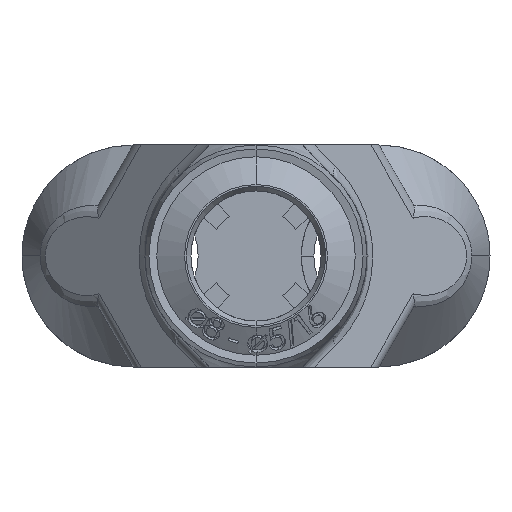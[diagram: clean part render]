
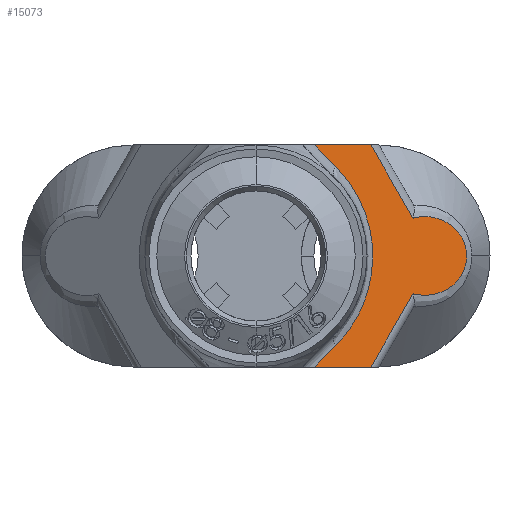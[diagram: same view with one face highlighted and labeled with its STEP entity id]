
A CAD part, front view. The second image highlights one B-rep face of the part: STEP entity #15073.
In plain terms, the highlighted planar face has unit normal (0.643, -0.766, 0).
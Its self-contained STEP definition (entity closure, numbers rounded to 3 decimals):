
#749 = EDGE_CURVE ( 'NONE', #16513, #25764, #30903, .T. ) ;
#1250 = CARTESIAN_POINT ( 'NONE',  ( 10.256, 12.173, -2.481 ) ) ;
#1290 = LINE ( 'NONE', #24335, #3284 ) ;
#1532 = CARTESIAN_POINT ( 'NONE',  ( 11.336, 13.078, -2.424 ) ) ;
#2227 = VECTOR ( 'NONE', #33883, 1000. ) ;
#3107 = CARTESIAN_POINT ( 'NONE',  ( 3.185, 6.239, -7.486 ) ) ;
#3176 = EDGE_CURVE ( 'NONE', #29119, #32902, #15139, .T. ) ;
#3284 = VECTOR ( 'NONE', #20287, 1000. ) ;
#3768 = EDGE_CURVE ( 'NONE', #29119, #16513, #1290, .T. ) ;
#4866 = CARTESIAN_POINT ( 'NONE',  ( 13.099, 14.558, 0.913 ) ) ;
#5126 = CARTESIAN_POINT ( 'NONE',  ( 7.424, 9.796, 6.679 ) ) ;
#5700 = CARTESIAN_POINT ( 'NONE',  ( 9.9, 11.874, 2.39 ) ) ;
#5820 = VECTOR ( 'NONE', #5950, 1000. ) ;
#5860 = CARTESIAN_POINT ( 'NONE',  ( 5.785, 8.42, -7. ) ) ;
#5950 = DIRECTION ( 'NONE',  ( 0.766, 0.643, 0. ) ) ;
#7753 = CARTESIAN_POINT ( 'NONE',  ( 12.642, 14.175, -1.636 ) ) ;
#7921 = VERTEX_POINT ( 'NONE', #13990 ) ;
#8015 = CARTESIAN_POINT ( 'NONE',  ( 13.011, 14.484, -1.115 ) ) ;
#8649 = ORIENTED_EDGE ( 'NONE', *, *, #15639, .T. ) ;
#9899 = EDGE_CURVE ( 'NONE', #11833, #7921, #35398, .T. ) ;
#10220 = CARTESIAN_POINT ( 'NONE',  ( 9.9, 11.874, -2.39 ) ) ;
#10366 = VERTEX_POINT ( 'NONE', #18680 ) ;
#10900 = CARTESIAN_POINT ( 'NONE',  ( 13.27, 14.701, 0.239 ) ) ;
#11026 = CARTESIAN_POINT ( 'NONE',  ( 11.687, 13.373, 2.316 ) ) ;
#11166 = CARTESIAN_POINT ( 'NONE',  ( 13.14, 14.593, 0.805 ) ) ;
#11307 = CARTESIAN_POINT ( 'NONE',  ( 13.003, 14.478, 1.115 ) ) ;
#11443 = CARTESIAN_POINT ( 'NONE',  ( 3.671, 6.647, 7. ) ) ;
#11833 = VERTEX_POINT ( 'NONE', #19672 ) ;
#12157 = DIRECTION ( 'NONE',  ( -0.766, -0.643, 0. ) ) ;
#12277 = CARTESIAN_POINT ( 'NONE',  ( 5.014, 7.774, -5.657 ) ) ;
#12309 = ORIENTED_EDGE ( 'NONE', *, *, #3768, .T. ) ;
#12889 = ORIENTED_EDGE ( 'NONE', *, *, #9899, .T. ) ;
#13990 = CARTESIAN_POINT ( 'NONE',  ( 9.9, 11.874, -2.39 ) ) ;
#14058 = CARTESIAN_POINT ( 'NONE',  ( 12.188, 13.793, -2.028 ) ) ;
#14173 = FACE_OUTER_BOUND ( 'NONE', #35844, .T. ) ;
#14182 = CARTESIAN_POINT ( 'NONE',  ( 13.279, 14.709, 0.119 ) ) ;
#15073 = ADVANCED_FACE ( 'NONE', ( #14173 ), #40853, .F. ) ;
#15139 = LINE ( 'NONE', #24806, #5820 ) ;
#15521 = CARTESIAN_POINT ( 'NONE',  ( 8.328, 10.554, -2.343 ) ) ;
#15639 = EDGE_CURVE ( 'NONE', #7921, #25714, #36437, .T. ) ;
#15930 = CARTESIAN_POINT ( 'NONE',  ( -9.067, -4.041, -7. ) ) ;
#16513 = VERTEX_POINT ( 'NONE', #32533 ) ;
#17095 = CARTESIAN_POINT ( 'NONE',  ( 11.695, 13.379, -2.312 ) ) ;
#17219 = CARTESIAN_POINT ( 'NONE',  ( 13.108, 14.565, -0.913 ) ) ;
#17584 = ORIENTED_EDGE ( 'NONE', *, *, #749, .T. ) ;
#17610 = CARTESIAN_POINT ( 'NONE',  ( 12.638, 14.171, 1.641 ) ) ;
#18018 = VECTOR ( 'NONE', #19212, 1000. ) ;
#18541 = CARTESIAN_POINT ( 'NONE',  ( 5.014, 7.774, -5.657 ) ) ;
#18680 = CARTESIAN_POINT ( 'NONE',  ( 3.671, 6.647, -7. ) ) ;
#19212 = DIRECTION ( 'NONE',  ( -0.608, -0.51, -0.608 ) ) ;
#19608 = VECTOR ( 'NONE', #12157, 1000. ) ;
#19672 = CARTESIAN_POINT ( 'NONE',  ( 7.238, 9.64, -7. ) ) ;
#19737 = ORIENTED_EDGE ( 'NONE', *, *, #37223, .F. ) ;
#20270 = CARTESIAN_POINT ( 'NONE',  ( 10.617, 12.476, 2.49 ) ) ;
#20287 = DIRECTION ( 'NONE',  ( 0.608, 0.51, -0.608 ) ) ;
#20413 = CARTESIAN_POINT ( 'NONE',  ( 12.95, 14.433, 1.21 ) ) ;
#20496 = LINE ( 'NONE', #3107, #18018 ) ;
#20677 = CARTESIAN_POINT ( 'NONE',  ( 12.777, 14.288, -1.479 ) ) ;
#20933 = ORIENTED_EDGE ( 'NONE', *, *, #34180, .T. ) ;
#21076 = DIRECTION ( 'NONE',  ( -0.461, -0.387, 0.799 ) ) ;
#21772 = LINE ( 'NONE', #5126, #37661 ) ;
#22336 = ORIENTED_EDGE ( 'NONE', *, *, #24813, .T. ) ;
#22722 = LINE ( 'NONE', #5860, #19608 ) ;
#23323 = CARTESIAN_POINT ( 'NONE',  ( 10.257, 12.173, 2.464 ) ) ;
#23458 = CARTESIAN_POINT ( 'NONE',  ( 10.078, 12.023, 2.435 ) ) ;
#23605 = CARTESIAN_POINT ( 'NONE',  ( 13.208, 14.649, 0.586 ) ) ;
#23641 = ORIENTED_EDGE ( 'NONE', *, *, #3176, .F. ) ;
#23727 = CARTESIAN_POINT ( 'NONE',  ( 13.279, 14.709, -0.238 ) ) ;
#24335 = CARTESIAN_POINT ( 'NONE',  ( 5.235, 7.959, 5.436 ) ) ;
#24806 = CARTESIAN_POINT ( 'NONE',  ( 5.785, 8.42, 7. ) ) ;
#24813 = EDGE_CURVE ( 'NONE', #25764, #10366, #20496, .T. ) ;
#25714 = VERTEX_POINT ( 'NONE', #5700 ) ;
#25764 = VERTEX_POINT ( 'NONE', #12277 ) ;
#26500 = CARTESIAN_POINT ( 'NONE',  ( 13.234, 14.671, 0.473 ) ) ;
#28448 = CARTESIAN_POINT ( 'NONE',  ( 7.238, 9.64, 7. ) ) ;
#29119 = VERTEX_POINT ( 'NONE', #11443 ) ;
#30903 =( BOUNDED_CURVE ( )  B_SPLINE_CURVE ( 3, ( #40592, #37980, #15521, #18541 ),
 .UNSPECIFIED., .F., .F. ) 
 B_SPLINE_CURVE_WITH_KNOTS ( ( 4, 4 ),
 ( 2.356, 3.927 ),
 .UNSPECIFIED. ) 
 CURVE ( )  GEOMETRIC_REPRESENTATION_ITEM ( )  RATIONAL_B_SPLINE_CURVE ( ( 1., 0.805, 0.805, 1. ) ) 
 REPRESENTATION_ITEM ( '' )  );
#32533 = CARTESIAN_POINT ( 'NONE',  ( 5.014, 7.774, 5.657 ) ) ;
#32902 = VERTEX_POINT ( 'NONE', #28448 ) ;
#32915 = CARTESIAN_POINT ( 'NONE',  ( 12.344, 13.924, 1.914 ) ) ;
#33042 = CARTESIAN_POINT ( 'NONE',  ( 12.348, 13.927, -1.912 ) ) ;
#33177 = CARTESIAN_POINT ( 'NONE',  ( 10.8, 12.629, 2.486 ) ) ;
#33304 = CARTESIAN_POINT ( 'NONE',  ( 10.621, 12.479, -2.507 ) ) ;
#33441 = CARTESIAN_POINT ( 'NONE',  ( 12.775, 14.286, 1.481 ) ) ;
#33883 = DIRECTION ( 'NONE',  ( 0.461, 0.387, 0.799 ) ) ;
#34180 = EDGE_CURVE ( 'NONE', #25714, #32902, #21772, .T. ) ;
#35065 = DIRECTION ( 'NONE',  ( -0.643, 0.766, 0. ) ) ;
#35398 = LINE ( 'NONE', #40102, #2227 ) ;
#35844 = EDGE_LOOP ( 'NONE', ( #8649, #20933, #23641, #12309, #17584, #22336, #19737, #12889 ) ) ;
#36337 = AXIS2_PLACEMENT_3D ( 'NONE', #15930, #35065, #40993 ) ;
#36368 = CARTESIAN_POINT ( 'NONE',  ( 12.184, 13.79, 2.03 ) ) ;
#36437 = B_SPLINE_CURVE_WITH_KNOTS ( 'NONE', 3,
 ( #10220, #1250, #33304, #1532, #17095, #14058, #33042, #7753, #20677, #8015, #17219, #39294, #23727, #14182, #10900, #26500, #23605, #11166, #4866, #11307, #20413, #33441, #17610, #32915, #36368, #11026, #36491, #33177, #20270, #23323, #23458, #39802 ),
 .UNSPECIFIED., .F., .F.,
 ( 4, 2, 2, 2, 2, 2, 2, 2, 2, 2, 2, 2, 2, 2, 2, 4 ),
 ( 0., 0.001, 0.003, 0.004, 0.004, 0.005, 0.006, 0.006, 0.006, 0.007, 0.007, 0.008, 0.009, 0.01, 0.011, 0.011 ),
 .UNSPECIFIED. ) ;
#36491 = CARTESIAN_POINT ( 'NONE',  ( 11.339, 13.081, 2.423 ) ) ;
#37223 = EDGE_CURVE ( 'NONE', #11833, #10366, #22722, .T. ) ;
#37661 = VECTOR ( 'NONE', #21076, 1000. ) ;
#37980 = CARTESIAN_POINT ( 'NONE',  ( 8.328, 10.554, 2.343 ) ) ;
#39294 = CARTESIAN_POINT ( 'NONE',  ( 13.243, 14.679, -0.471 ) ) ;
#39802 = CARTESIAN_POINT ( 'NONE',  ( 9.9, 11.874, 2.39 ) ) ;
#40102 = CARTESIAN_POINT ( 'NONE',  ( 1.331, 4.684, -17.231 ) ) ;
#40592 = CARTESIAN_POINT ( 'NONE',  ( 5.014, 7.774, 5.657 ) ) ;
#40853 = PLANE ( 'NONE',  #36337 ) ;
#40993 = DIRECTION ( 'NONE',  ( -0.766, -0.643, 0. ) ) ;
